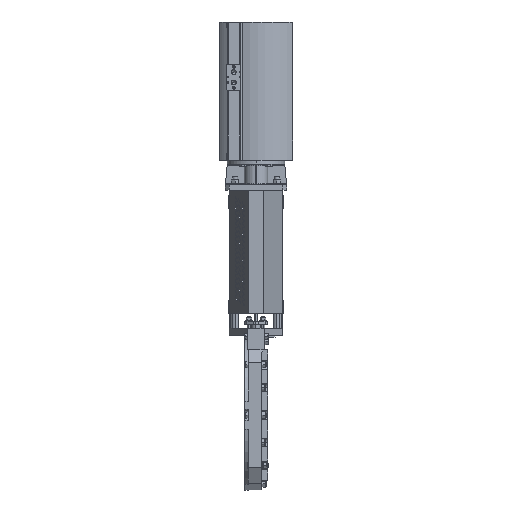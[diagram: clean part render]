
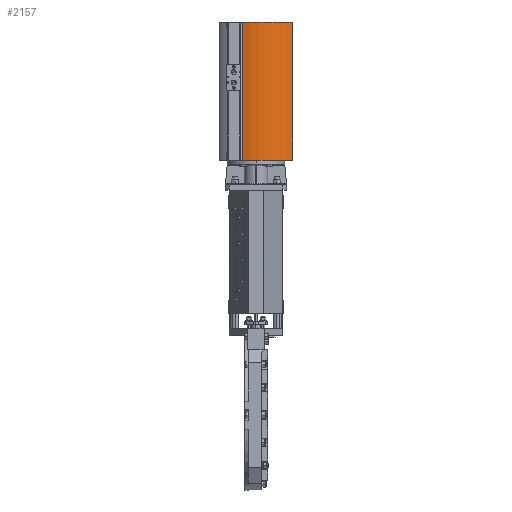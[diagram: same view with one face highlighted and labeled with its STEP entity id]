
A CAD part, front view. The second image highlights one B-rep face of the part: STEP entity #2157.
In plain terms, the highlighted cylindrical face has radius 185 mm (diameter 370 mm), a partial arc.
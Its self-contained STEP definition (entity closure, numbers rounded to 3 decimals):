
#2157=ADVANCED_FACE('',(#7241),#7242,.T.);
#7241=FACE_OUTER_BOUND('',#13775,.T.);
#7242=CYLINDRICAL_SURFACE('',#13776,185.);
#13775=EDGE_LOOP('',(#31682,#31683,#31684,#31685,#31686,#31687,#31688,#31689));
#13776=AXIS2_PLACEMENT_3D('',#31690,#31691,#31692);
#31682=ORIENTED_EDGE('',*,*,#45159,.T.);
#31683=ORIENTED_EDGE('',*,*,#45160,.T.);
#31684=ORIENTED_EDGE('',*,*,#41792,.T.);
#31685=ORIENTED_EDGE('',*,*,#41837,.T.);
#31686=ORIENTED_EDGE('',*,*,#41820,.T.);
#31687=ORIENTED_EDGE('',*,*,#45161,.F.);
#31688=ORIENTED_EDGE('',*,*,#45011,.T.);
#31689=ORIENTED_EDGE('',*,*,#45141,.T.);
#31690=CARTESIAN_POINT('',(0.,45.,1006.));
#31691=DIRECTION('',(0.,0.,-1.));
#31692=DIRECTION('',(-0.289,-0.957,0.));
#41792=EDGE_CURVE('',#52707,#52711,#52713,.T.);
#41820=EDGE_CURVE('',#52761,#52759,#52762,.T.);
#41837=EDGE_CURVE('',#52711,#52761,#52789,.T.);
#45011=EDGE_CURVE('',#57639,#57637,#57640,.T.);
#45141=EDGE_CURVE('',#57637,#57826,#57828,.T.);
#45159=EDGE_CURVE('',#57826,#57851,#57852,.T.);
#45160=EDGE_CURVE('',#57851,#52707,#57853,.T.);
#45161=EDGE_CURVE('',#57639,#52759,#57854,.T.);
#52707=VERTEX_POINT('',#66643);
#52711=VERTEX_POINT('',#66648);
#52713=CIRCLE('',#66650,185.);
#52759=VERTEX_POINT('',#66703);
#52761=VERTEX_POINT('',#66705);
#52762=CIRCLE('',#66706,185.);
#52789=LINE('',#66736,#66737);
#57637=VERTEX_POINT('',#80743);
#57639=VERTEX_POINT('',#80745);
#57640=CIRCLE('',#80746,185.);
#57826=VERTEX_POINT('',#81120);
#57828=LINE('',#81122,#81123);
#57851=VERTEX_POINT('',#81150);
#57852=CIRCLE('',#81151,185.);
#57853=LINE('',#81152,#81153);
#57854=LINE('',#81154,#81155);
#66643=CARTESIAN_POINT('',(137.966,-78.249,1484.));
#66648=CARTESIAN_POINT('',(139.258,-76.787,1484.));
#66650=AXIS2_PLACEMENT_3D('',#90914,#90915,#90916);
#66703=CARTESIAN_POINT('',(-53.553,-132.079,1506.));
#66705=CARTESIAN_POINT('',(139.258,-76.787,1506.));
#66706=AXIS2_PLACEMENT_3D('',#90984,#90985,#90986);
#66736=CARTESIAN_POINT('',(139.258,-76.787,1484.));
#66737=VECTOR('',#91029,1000.);
#80743=CARTESIAN_POINT('',(139.258,-76.787,976.));
#80745=CARTESIAN_POINT('',(-53.553,-132.079,976.));
#80746=AXIS2_PLACEMENT_3D('',#95455,#95456,#95457);
#81120=CARTESIAN_POINT('',(139.258,-76.787,1004.));
#81122=CARTESIAN_POINT('',(139.258,-76.787,976.));
#81123=VECTOR('',#95689,1000.);
#81150=CARTESIAN_POINT('',(137.966,-78.249,1004.));
#81151=AXIS2_PLACEMENT_3D('',#95733,#95734,#95735);
#81152=CARTESIAN_POINT('',(137.966,-78.249,1004.));
#81153=VECTOR('',#95736,10.);
#81154=CARTESIAN_POINT('',(-53.553,-132.079,1004.));
#81155=VECTOR('',#95737,10.);
#90914=CARTESIAN_POINT('',(0.,45.,1484.));
#90915=DIRECTION('',(0.,0.,1.));
#90916=DIRECTION('',(-0.289,-0.957,0.));
#90984=CARTESIAN_POINT('',(0.,45.,1506.));
#90985=DIRECTION('',(0.,0.,-1.));
#90986=DIRECTION('',(-0.289,-0.957,0.));
#91029=DIRECTION('',(0.,0.,1.));
#95455=CARTESIAN_POINT('',(0.,45.,976.));
#95456=DIRECTION('',(0.,0.,1.));
#95457=DIRECTION('',(-0.289,-0.957,0.));
#95689=DIRECTION('',(0.,0.,1.));
#95733=CARTESIAN_POINT('',(0.,45.,1004.));
#95734=DIRECTION('',(0.,0.,-1.));
#95735=DIRECTION('',(-0.289,-0.957,0.));
#95736=DIRECTION('',(0.,0.,1.));
#95737=DIRECTION('',(0.,0.,1.));
